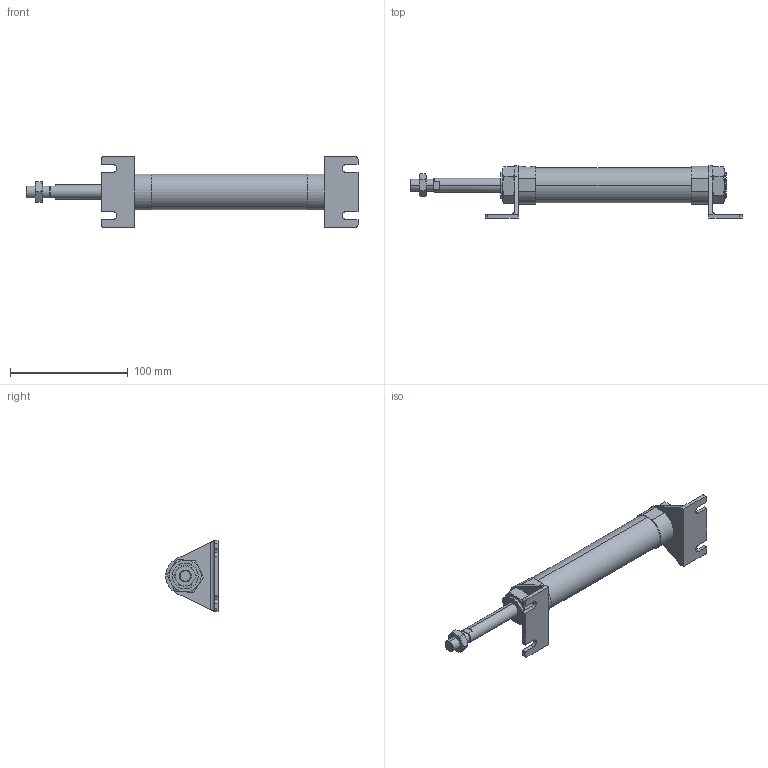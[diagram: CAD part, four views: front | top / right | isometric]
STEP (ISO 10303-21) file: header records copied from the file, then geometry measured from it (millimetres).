
FILE_DESCRIPTION (( 'STEP AP203' ), '1' );
FILE_NAME ('J#0-25-50-L.STEP', '2016-03-10T00:44:28', ( '' ), ( '' ), 'SwSTEP 2.0', 'SolidWorks 2014', '' );
FILE_SCHEMA (( 'CONFIG_CONTROL_DESIGN' ));
Length unit declared in the file: millimetre
Products named in the file (5): J#0-25-50; J#2-25-L; J#0-25-50-L
Assembly tree (6 placements, depth 2):
  J#0-25-50-L
    J#0-25-50
    (unnamed)
    (unnamed)  x2
    J#2-25-L  x2
Bounding box: 282.2 x 44.5 x 60 mm (x, y, z)
Volume: 160232.4 mm3; surface area: 40778.4 mm2
Topology: 6 solids, 6 shells, 167 faces, 392 edges, 241 vertices
Faces by surface type: plane 75, cylinder 48, torus 36, cone 8
Entity records: 4187 total; most frequent: CARTESIAN_POINT 947, DIRECTION 572, ORIENTED_EDGE 544, EDGE_CURVE 272, AXIS2_PLACEMENT_3D 228, VERTEX_POINT 167, EDGE_LOOP 131, FACE_OUTER_BOUND 119
